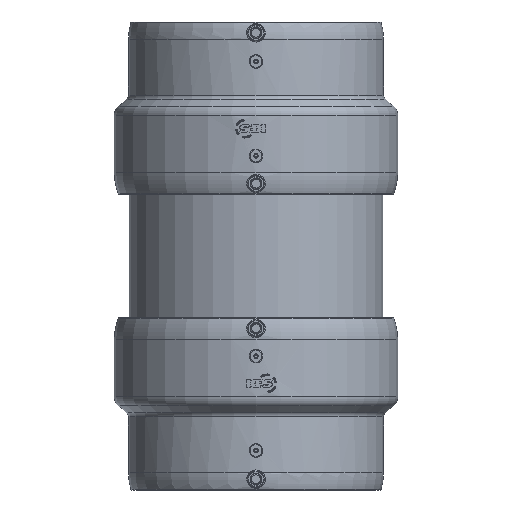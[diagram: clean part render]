
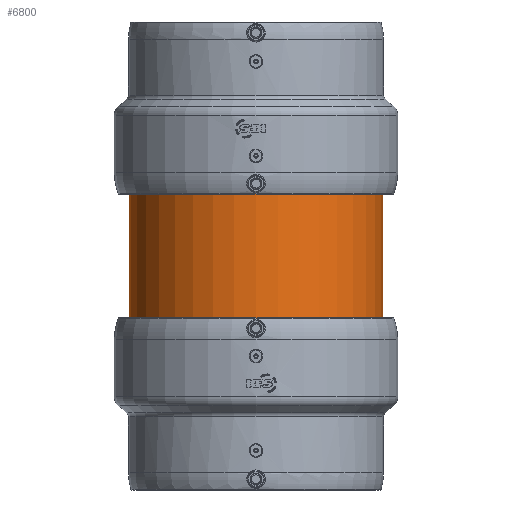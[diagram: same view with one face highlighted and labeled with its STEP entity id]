
A CAD part, front view. The second image highlights one B-rep face of the part: STEP entity #6800.
In plain terms, the highlighted cylindrical face has radius 112.5 mm (diameter 225 mm), a partial arc.
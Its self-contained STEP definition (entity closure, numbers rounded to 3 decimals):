
#15 = DIRECTION ( 'NONE',  ( -1., 0., 0. ) ) ;
#545 = VERTEX_POINT ( 'NONE', #37042 ) ;
#2436 = CARTESIAN_POINT ( 'NONE',  ( -112.5, 0., 250. ) ) ;
#2870 = CARTESIAN_POINT ( 'NONE',  ( 112.5, 0., 250. ) ) ;
#6800 = ADVANCED_FACE ( 'NONE', ( #21921 ), #39287, .T. ) ;
#6996 = DIRECTION ( 'NONE',  ( 0., 0., 1. ) ) ;
#7596 = CARTESIAN_POINT ( 'NONE',  ( -112.5, 0., 0. ) ) ;
#8336 = VERTEX_POINT ( 'NONE', #22198 ) ;
#13142 = DIRECTION ( 'NONE',  ( 0., 0., 1. ) ) ;
#13992 = CIRCLE ( 'NONE', #48122, 112.5 ) ;
#16010 = CIRCLE ( 'NONE', #55662, 112.5 ) ;
#16607 = EDGE_CURVE ( 'NONE', #545, #44025, #55821, .T. ) ;
#17769 = VECTOR ( 'NONE', #20582, 1000. ) ;
#18275 = EDGE_CURVE ( 'NONE', #44025, #25364, #16010, .T. ) ;
#18518 = EDGE_CURVE ( 'NONE', #8336, #25364, #51081, .T. ) ;
#19157 = ORIENTED_EDGE ( 'NONE', *, *, #18518, .F. ) ;
#20524 = DIRECTION ( 'NONE',  ( 1., 0., 0. ) ) ;
#20582 = DIRECTION ( 'NONE',  ( 0., 0., -1. ) ) ;
#20619 = ORIENTED_EDGE ( 'NONE', *, *, #16607, .T. ) ;
#21921 = FACE_OUTER_BOUND ( 'NONE', #36544, .T. ) ;
#22198 = CARTESIAN_POINT ( 'NONE',  ( 112.5, 0., 250. ) ) ;
#23816 = ORIENTED_EDGE ( 'NONE', *, *, #44901, .F. ) ;
#24240 = DIRECTION ( 'NONE',  ( 0., 0., -1. ) ) ;
#25364 = VERTEX_POINT ( 'NONE', #44316 ) ;
#26694 = DIRECTION ( 'NONE',  ( 1., 0., 0. ) ) ;
#33258 = CARTESIAN_POINT ( 'NONE',  ( 0., 0., 0. ) ) ;
#33474 = AXIS2_PLACEMENT_3D ( 'NONE', #53124, #48232, #15 ) ;
#36544 = EDGE_LOOP ( 'NONE', ( #19157, #23816, #20619, #37226 ) ) ;
#37042 = CARTESIAN_POINT ( 'NONE',  ( -112.5, 0., 250. ) ) ;
#37226 = ORIENTED_EDGE ( 'NONE', *, *, #18275, .T. ) ;
#39287 = CYLINDRICAL_SURFACE ( 'NONE', #33474, 112.5 ) ;
#40918 = VECTOR ( 'NONE', #24240, 1000. ) ;
#44025 = VERTEX_POINT ( 'NONE', #7596 ) ;
#44316 = CARTESIAN_POINT ( 'NONE',  ( 112.5, 0., 0. ) ) ;
#44901 = EDGE_CURVE ( 'NONE', #545, #8336, #13992, .T. ) ;
#48122 = AXIS2_PLACEMENT_3D ( 'NONE', #52709, #13142, #26694 ) ;
#48232 = DIRECTION ( 'NONE',  ( 0., 0., -1. ) ) ;
#51081 = LINE ( 'NONE', #2870, #40918 ) ;
#52709 = CARTESIAN_POINT ( 'NONE',  ( 0., 0., 250. ) ) ;
#53124 = CARTESIAN_POINT ( 'NONE',  ( 0., 0., 250. ) ) ;
#55662 = AXIS2_PLACEMENT_3D ( 'NONE', #33258, #6996, #20524 ) ;
#55821 = LINE ( 'NONE', #2436, #17769 ) ;
